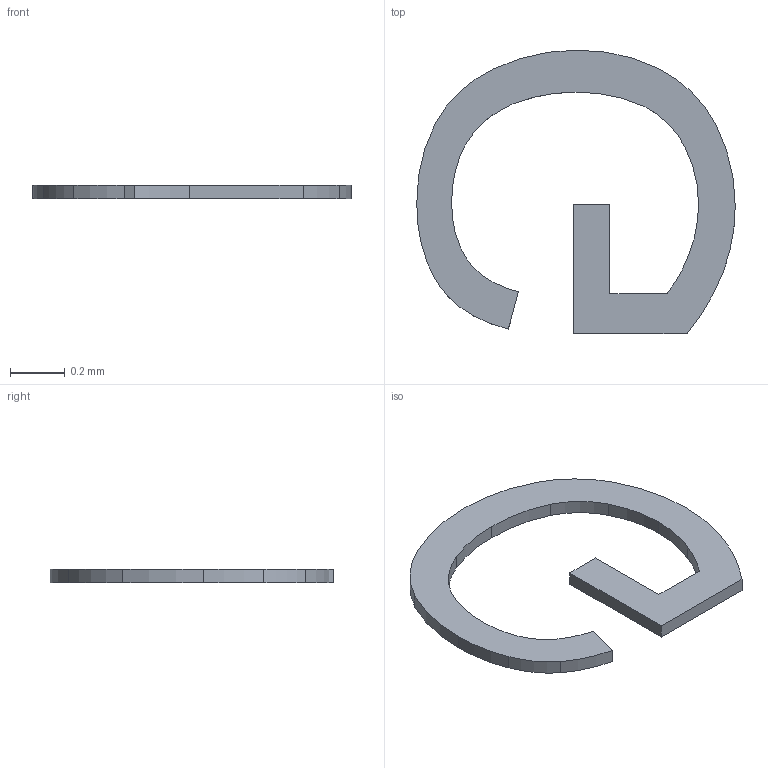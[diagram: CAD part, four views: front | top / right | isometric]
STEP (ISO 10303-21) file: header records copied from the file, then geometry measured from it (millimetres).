
FILE_DESCRIPTION(/* description */ ('STEP AP242 Edition 2','CAx-IF Rec.Pracs.---Representation and Presentation of Product Manufacturing Information (PMI)---4.0---2014-10-13','CAx-IF Rec.Pracs.---3D Tessellated Geometry---0.4---2014-09-14','2;1','CAx-IF Rec.Pracs.---User Defined Attributes---1.5---2016-08-15'),/* implementation_level */ '2;1');
FILE_NAME(/* name */ 'Drone Layout - Surface 300',/* time_stamp */ '2026-10-04T22:22:55Z',/* author */ (''),/* organization */ (''),/* preprocessor_version */ 'ST-DEVELOPER v20',/* originating_system */ 'ONSHAPE BY PTC INC, 1.221',/* authorisation */ ' ');
FILE_SCHEMA (('AP242_MANAGED_MODEL_BASED_3D_ENGINEERING_MIM_LF { 1 0 10303 442 3 1 4 }'));
Length unit declared in the file: metre
Products named in the file (1): Text_ITGMPU
Bounding box: 1.16 x 1.03 x 0.05 mm (x, y, z)
Volume: 0 mm3; surface area: 1.3 mm2
Topology: 1 solids, 1 shells, 31 faces, 87 edges, 58 vertices
Faces by surface type: cylinder 23, plane 8
Entity records: 1061 total; most frequent: CARTESIAN_POINT 240, DIRECTION 176, ORIENTED_EDGE 174, EDGE_CURVE 87, AXIS2_PLACEMENT_3D 78, VERTEX_POINT 58, CIRCLE 46, EDGE_LOOP 31
